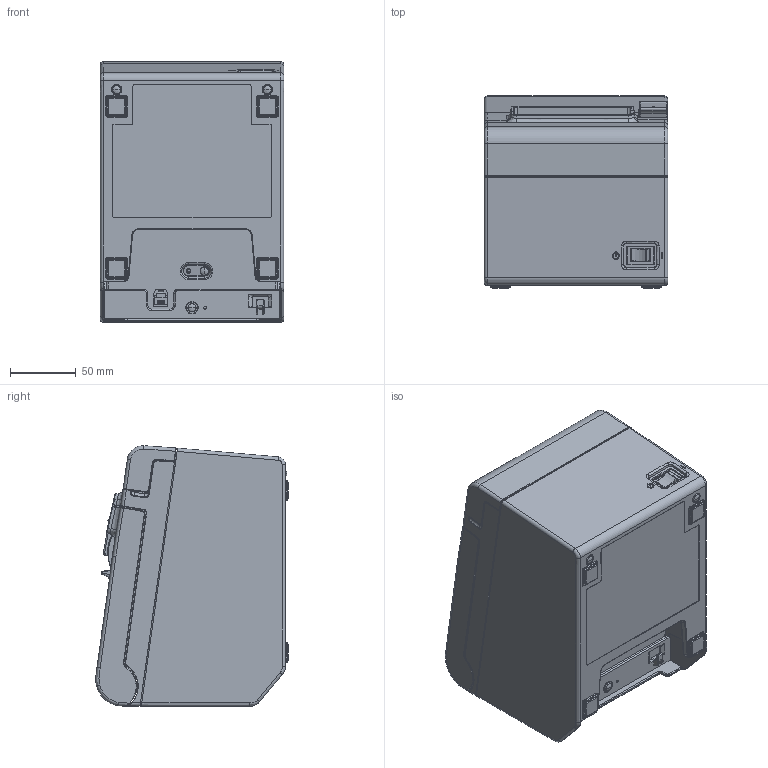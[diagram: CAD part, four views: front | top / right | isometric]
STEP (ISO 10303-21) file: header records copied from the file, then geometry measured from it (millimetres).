
FILE_DESCRIPTION((''),'2;1');
FILE_NAME('TM-T20III_CLOSE','2025-01-15T16:35:30',('5012938'),(''),'CREO PARAMETRIC BY PTC INC, 2022281','CREO PARAMETRIC BY PTC INC, 2022281','');
FILE_SCHEMA(('AUTOMOTIVE_DESIGN { 1 0 10303 214 1 1 1 1 }'));
Products named in the file (1): TM-T20III_CLOSE
Bounding box: 140 x 146.89 x 198.6 mm (x, y, z)
Surface area: 474778.4 mm2 (no closed solid volume)
Topology: 0 solids, 40 shells, 4157 faces, 11608 edges, 7452 vertices
Faces by surface type: plane 2004, cylinder 1467, bspline 340, torus 171, cone 118, sphere 49, extrusion 8
Entity records: 179608 total; most frequent: CARTESIAN_POINT 74751, ORIENTED_EDGE 22098, DIRECTION 20966, EDGE_CURVE 11592, VERTEX_POINT 7452, VECTOR 7136, LINE 7128, AXIS2_PLACEMENT_3D 6915
